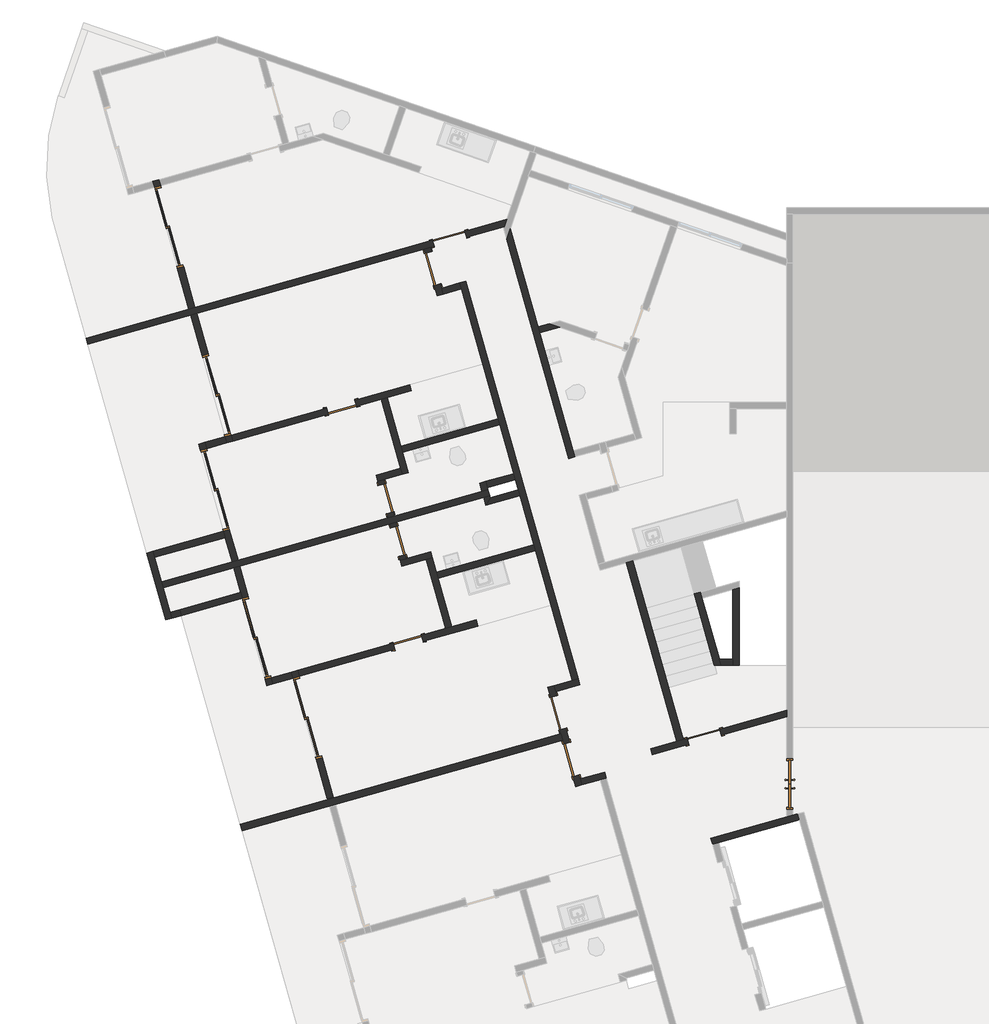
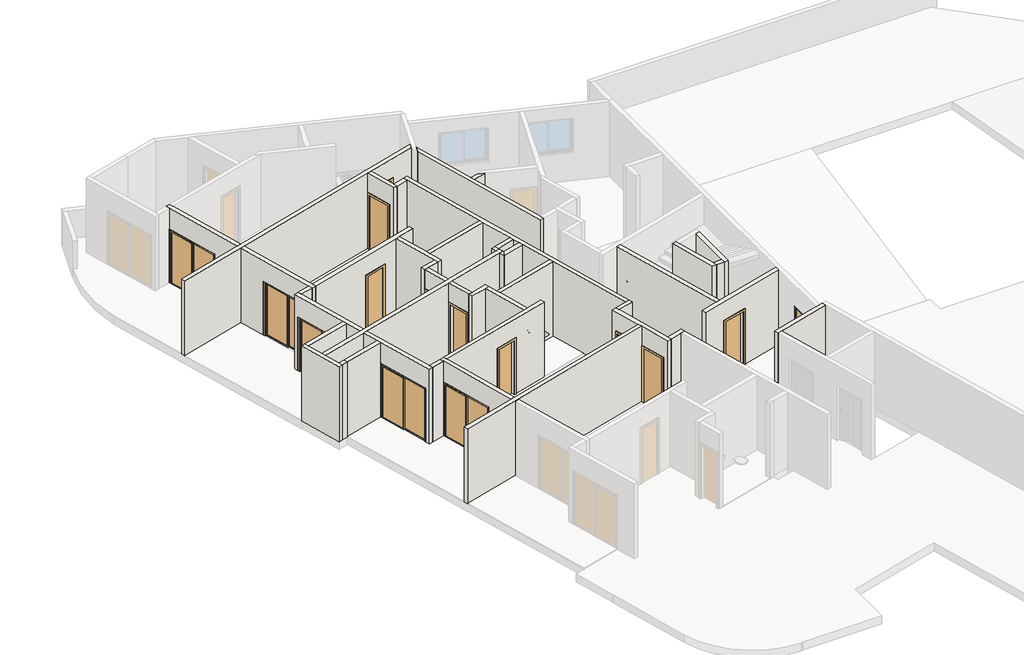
# One storey, part 2 of 4: 42 walls, 15 doors.
"""IFC4 building model written with IfcOpenShell, lengths in millimetres."""

from ifc_helpers import new_model, si_unit, frame, origin, place, context, project, spatial, polyline, outline, extrude, faceted_brep, transform, mapped, element, save
from components import door_1_20_x_2_10_046a985c, p2_80cm_9d4be4ef, p2_80cm_083652d6, p3_70cm_ef4d15e3, p3_70cm_0a698c7c, p4_correr_200cm_eaaa0877

model = new_model("IFC4")

# Units and contexts
model_context = context("Model", 3, world=origin())
ifc_project = project(units=[si_unit("LENGTHUNIT", "METRE", prefix="MILLI")], contexts=[model_context])

# Site, building, storey
site = spatial("IfcSite", under=ifc_project)
building = spatial("IfcBuilding", under=site)
storey = spatial("IfcBuildingStorey", under=building, Name="Garagem 2", Elevation=44950.0)

# Doors
placement = place(None, origin())
door_1_20_x_2_10_shape = door_1_20_x_2_10_046a985c(model_context)
element("IfcDoor", 1, ObjectType="Porta pivotante dupla sem revestimento : 1.20 x 2.10", at=placement, inside=storey, context=model_context, shape_type="MappedRepresentation", body=[
    mapped(door_1_20_x_2_10_shape, transform((-75072.8282189, 18002.5140353, 44950.0), x_axis=(0.0, -1.0, 0.0), y_axis=(1.0, 0.0, 0.0), z_axis=(0.0, 0.0, 1.0))),
])
p2_80cm_shape = p2_80cm_9d4be4ef(model_context)
element("IfcDoor", 2, ObjectType="M_Folha única1 : P2 - 80CM", at=placement, inside=storey, context=model_context, shape_type="MappedRepresentation", body=[
    mapped(p2_80cm_shape, transform((-83145.1128896, 30941.0402894, 44950.0), x_axis=(-0.9623628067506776, -0.2717679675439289, 0.0), y_axis=(0.2717679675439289, -0.9623628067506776, 0.0), z_axis=(0.0, 0.0, 1.0))),
])
element("IfcDoor", 3, ObjectType="M_Folha única1 : P2 - 80CM", at=placement, inside=storey, context=model_context, shape_type="MappedRepresentation", body=[
    mapped(p2_80cm_shape, transform((-80566.3456776, 19693.5423602, 44950.0), x_axis=(0.2717679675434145, -0.9623628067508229, 0.0), y_axis=(0.9623628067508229, 0.2717679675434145, 0.0), z_axis=(0.0, 0.0, 1.0))),
])
p2_80cm_2_shape = p2_80cm_083652d6(model_context)
element("IfcDoor", 4, ObjectType="M_Folha única1 : P2 - 80CM", at=placement, inside=storey, context=model_context, shape_type="MappedRepresentation", body=[
    mapped(p2_80cm_2_shape, transform((-83542.2049222, 30231.4150941, 44950.0), x_axis=(-0.2717679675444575, 0.9623628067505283, 0.0), y_axis=(-0.9623628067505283, -0.2717679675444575, 0.0), z_axis=(0.0, 0.0, 1.0))),
])
element("IfcDoor", 5, ObjectType="M_Folha única1 : P2 - 80CM", at=placement, inside=storey, context=model_context, shape_type="MappedRepresentation", body=[
    mapped(p2_80cm_2_shape, transform((-80253.8125149, 18586.8251325, 44950.0), x_axis=(-0.2717679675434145, 0.9623628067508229, 0.0), y_axis=(-0.9623628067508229, -0.2717679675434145, 0.0), z_axis=(0.0, 0.0, 1.0))),
])
p3_70cm_shape = p3_70cm_ef4d15e3(model_context)
element("IfcDoor", 6, ObjectType="M_Folha única1 : P3 - 70CM", at=placement, inside=storey, context=model_context, shape_type="MappedRepresentation", body=[
    mapped(p3_70cm_shape, transform((-84129.1775441, 21363.1168842, 44950.0), x_axis=(0.9623628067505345, 0.27176796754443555, 0.0), y_axis=(-0.27176796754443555, 0.9623628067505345, 0.0), z_axis=(0.0, 0.0, 1.0))),
])
element("IfcDoor", 7, ObjectType="M_Folha única1 : P3 - 70CM", at=placement, inside=storey, context=model_context, shape_type="MappedRepresentation", body=[
    mapped(p3_70cm_shape, transform((-84650.97864, 24774.7108835, 44950.0), x_axis=(0.2717679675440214, -0.9623628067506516, 0.0), y_axis=(0.9623628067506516, 0.2717679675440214, 0.0), z_axis=(0.0, 0.0, 1.0))),
])
p3_70cm_2_shape = p3_70cm_0a698c7c(model_context)
element("IfcDoor", 8, ObjectType="M_Folha única1 : P3 - 70CM", at=placement, inside=storey, context=model_context, shape_type="MappedRepresentation", body=[
    mapped(p3_70cm_2_shape, transform((-84365.6222741, 23764.2299364, 44950.0), x_axis=(-0.2717679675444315, 0.9623628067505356, 0.0), y_axis=(-0.9623628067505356, -0.2717679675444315, 0.0), z_axis=(0.0, 0.0, 1.0))),
])
element("IfcDoor", 9, ObjectType="M_Folha única1 : P3 - 70CM", at=placement, inside=storey, context=model_context, shape_type="MappedRepresentation", body=[
    mapped(p3_70cm_2_shape, transform((-85705.4317558, 26944.8211633, 44950.0), x_axis=(0.9623628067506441, 0.2717679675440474, 0.0), y_axis=(-0.2717679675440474, 0.9623628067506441, 0.0), z_axis=(0.0, 0.0, 1.0))),
])
p4_correr_200cm_shape = p4_correr_200cm_eaaa0877(model_context)
element("IfcDoor", 10, ObjectType="Porta de correr dupla envidraçada sem revestimento : P4 - CORRER - 200CM", at=placement, inside=storey, context=model_context, shape_type="MappedRepresentation", body=[
    mapped(p4_correr_200cm_shape, transform((-89799.7974026, 31217.9316171, 44950.0), x_axis=(0.27176796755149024, -0.9623628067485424, 0.0), y_axis=(0.9623628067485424, 0.27176796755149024, 0.0), z_axis=(0.0, 0.0, 1.0))),
])
element("IfcDoor", 11, ObjectType="Porta de correr dupla envidraçada sem revestimento : P4 - CORRER - 200CM", at=placement, inside=storey, context=model_context, shape_type="MappedRepresentation", body=[
    mapped(p4_correr_200cm_shape, transform((-88671.9603372, 27224.125969, 44950.0), x_axis=(-0.27176796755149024, 0.9623628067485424, 0.0), y_axis=(-0.9623628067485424, -0.27176796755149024, 0.0), z_axis=(0.0, 0.0, 1.0))),
])
element("IfcDoor", 12, ObjectType="Porta de correr dupla envidraçada sem revestimento : P4 - CORRER - 200CM", at=placement, inside=storey, context=model_context, shape_type="MappedRepresentation", body=[
    mapped(p4_correr_200cm_shape, transform((-86511.4049952, 19573.3416554, 44950.0), x_axis=(0.2717679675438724, -0.9623628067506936, 0.0), y_axis=(0.9623628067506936, 0.2717679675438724, 0.0), z_axis=(0.0, 0.0, 1.0))),
])
element("IfcDoor", 13, ObjectType="Porta de correr dupla envidraçada sem revestimento : P4 - CORRER - 200CM", at=placement, inside=storey, context=model_context, shape_type="MappedRepresentation", body=[
    mapped(p4_correr_200cm_shape, transform((-87717.4207223, 21466.8516126, 44950.0), x_axis=(0.2717679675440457, -0.9623628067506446, 0.0), y_axis=(0.9623628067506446, 0.2717679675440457, 0.0), z_axis=(0.0, 0.0, 1.0))),
])
element("IfcDoor", 14, ObjectType="Porta de correr dupla envidraçada sem revestimento : P4 - CORRER - 200CM", at=placement, inside=storey, context=model_context, shape_type="MappedRepresentation", body=[
    mapped(p4_correr_200cm_shape, transform((-88709.3738038, 24979.4758572, 44950.0), x_axis=(-0.2717679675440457, 0.9623628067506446, 0.0), y_axis=(-0.9623628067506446, -0.2717679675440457, 0.0), z_axis=(0.0, 0.0, 1.0))),
])
element("IfcDoor", 15, ObjectType="M_Folha única1 : PCF1 - 80CM", at=placement, inside=storey, context=model_context, shape_type="MappedRepresentation", body=[
    mapped(p2_80cm_shape, transform((-77103.5502958, 19127.1105693, 44950.0), x_axis=(-0.9623628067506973, -0.2717679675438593, 0.0), y_axis=(0.2717679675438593, -0.9623628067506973, 0.0), z_axis=(0.0, 0.0, 1.0))),
])

# Walls
element("IfcWall", 16, ObjectType="Básica .15 -  Interna", at=placement, inside=storey, context=model_context, shape_type="Brep", body=[
    faceted_brep([(-82901.0804648, 29892.9118737, 44950.0), (-82860.3152697, 29748.5574527, 44950.0), (-81990.6577736, 26668.9964711, 44950.0), (-81949.8925784, 26524.6420501, 44950.0), (-81623.7710174, 25369.806682, 44950.0), (-81583.0058223, 25225.452261, 44950.0), (-81515.0638304, 24984.8615593, 44950.0), (-81474.2986352, 24840.5071383, 44950.0), (-81148.1770742, 23685.6717702, 44950.0), (-81107.4118791, 23541.3173492, 44950.0), (-80237.7543829, 20461.7563676, 44950.0), (-80237.7543829, 20461.7563676, 47850.0), (-81107.4118791, 23541.3173492, 47850.0), (-81148.1770742, 23685.6717702, 47850.0), (-81474.2986352, 24840.5071383, 47850.0), (-81515.0638304, 24984.8615593, 47850.0), (-81583.0058223, 25225.452261, 47850.0), (-81623.7710174, 25369.806682, 47850.0), (-81949.8925784, 26524.6420501, 47850.0), (-81990.6577736, 26668.9964711, 47850.0), (-82860.3152697, 29748.5574527, 47850.0), (-82901.0804648, 29892.9118737, 47850.0), (-82756.7260438, 29933.6770689, 44950.0), (-82756.7260438, 29933.6770689, 47850.0), (-80093.3999619, 20502.5215627, 47850.0), (-80093.3999619, 20502.5215627, 44950.0)], [[[0, 1, 2, 3, 4, 5, 6, 7, 8, 9, 10, 11, 12, 13, 14, 15, 16, 17, 18, 19, 20, 21]], [[22, 23, 24, 25]], [[10, 9, 8, 7, 6, 5, 4, 3, 2, 1, 0, 22, 25]], [[21, 20, 19, 18, 17, 16, 15, 14, 13, 12, 11, 24, 23]], [[0, 21, 23, 22]], [[11, 10, 25, 24]]]),
])
element("IfcWall", 17, ObjectType="Básica .15 -  Interna", at=placement, inside=storey, context=model_context, shape_type="Brep", body=[
    faceted_brep([(-83750.2661164, 30692.2138999, 44950.0), (-83723.0893197, 30595.9776193, 44950.0), (-83723.0893197, 30595.9776193, 47050.0), (-83505.6749457, 29826.0873739, 47050.0), (-83505.6749457, 29826.0873739, 44950.0), (-83437.7329538, 29585.4966722, 44950.0), (-83437.7329538, 29585.4966722, 47850.0), (-83750.2661164, 30692.2138999, 47850.0), (-83578.7348987, 30636.7428144, 47050.0), (-83578.7348987, 30636.7428144, 44950.0), (-83605.9116954, 30732.9790951, 44950.0), (-83605.9116954, 30732.9790951, 47850.0), (-83334.1437279, 29770.6162883, 47850.0), (-83293.3785328, 29626.2618673, 47850.0), (-83293.3785328, 29626.2618673, 44950.0), (-83334.1437279, 29770.6162883, 44950.0), (-83361.3205246, 29866.852569, 44950.0), (-83361.3205246, 29866.852569, 47050.0)], [[[0, 1, 2, 3, 4, 5, 6, 7]], [[8, 9, 10, 11, 12, 13, 14, 15, 16, 17]], [[10, 9, 1, 0]], [[16, 15, 14, 5, 4]], [[7, 6, 13, 12, 11]], [[6, 5, 14, 13]], [[0, 7, 11, 10]], [[2, 1, 9, 8]], [[3, 2, 8, 17]], [[4, 3, 17, 16]]]),
])
element("IfcWall", 18, ObjectType="Básica .15 -  Interna", at=placement, inside=storey, context=model_context, shape_type="SweptSolid", body=[
    extrude(outline(polyline([(-82860.3152697, 29748.5574527), (-83293.3785328, 29626.2618673), (-83334.1437279, 29770.6162883), (-82901.0804648, 29892.9118737), (-82860.3152697, 29748.5574527)])), frame((0.0, 0.0, 44950.0), z_axis=(0.0, 0.0, 1.0), x_axis=(1.0, 0.0, 0.0)), (0.0, 0.0, 1.0), 2900.0),
])
element("IfcWall", 19, ObjectType="Básica .15 -  Interna", at=placement, inside=storey, context=model_context, shape_type="Brep", body=[
    faceted_brep([(-80093.3999619, 20502.5215627, 44950.0), (-80237.7543829, 20461.7563676, 44950.0), (-80670.817646, 20339.4607822, 44950.0), (-80670.817646, 20339.4607822, 47850.0), (-80237.7543829, 20461.7563676, 47850.0), (-80093.3999619, 20502.5215627, 47850.0), (-80052.6347668, 20358.1671417, 44950.0), (-80052.6347668, 20358.1671417, 47850.0), (-80630.0524508, 20195.1063612, 47850.0), (-80630.0524508, 20195.1063612, 44950.0)], [[[0, 1, 2, 3, 4, 5]], [[6, 7, 8, 9]], [[2, 1, 0, 6, 9]], [[5, 4, 3, 8, 7]], [[3, 2, 9, 8]], [[0, 5, 7, 6]]]),
])
element("IfcWall", 20, ObjectType="Básica .15 -  Interna", at=placement, inside=storey, context=model_context, shape_type="Brep", body=[
    faceted_brep([(-80529.815701, 19288.21464, 44950.0), (-80502.6389043, 19191.9783593, 44950.0), (-80461.8737092, 19047.6239383, 44950.0), (-80434.6969124, 18951.3876576, 44950.0), (-80434.6969124, 18951.3876576, 47050.0), (-80217.2825384, 18181.4974122, 47050.0), (-80217.2825384, 18181.4974122, 44950.0), (-80149.3405465, 17940.9067105, 44950.0), (-80149.3405465, 17940.9067105, 47850.0), (-80461.8737092, 19047.6239383, 47850.0), (-80502.6389043, 19191.9783593, 47850.0), (-80815.172067, 20298.695587, 47850.0), (-80815.172067, 20298.695587, 44950.0), (-80747.2300751, 20058.1048854, 44950.0), (-80747.2300751, 20058.1048854, 47050.0), (-80529.815701, 19288.21464, 47050.0), (-80290.3424914, 18992.1528527, 47050.0), (-80290.3424914, 18992.1528527, 44950.0), (-80385.46128, 19328.9798351, 44950.0), (-80385.46128, 19328.9798351, 47050.0), (-80602.8756541, 20098.8700805, 47050.0), (-80602.8756541, 20098.8700805, 44950.0), (-80630.0524508, 20195.1063612, 44950.0), (-80670.817646, 20339.4607822, 44950.0), (-80670.817646, 20339.4607822, 47850.0), (-80630.0524508, 20195.1063612, 47850.0), (-80045.7513206, 18126.0263266, 47850.0), (-80004.9861255, 17981.6719056, 47850.0), (-80004.9861255, 17981.6719056, 44950.0), (-80045.7513206, 18126.0263266, 44950.0), (-80072.9281174, 18222.2626073, 44950.0), (-80072.9281174, 18222.2626073, 47050.0)], [[[0, 1, 2, 3, 4, 5, 6, 7, 8, 9, 10, 11, 12, 13, 14, 15]], [[16, 17, 18, 19, 20, 21, 22, 23, 24, 25, 26, 27, 28, 29, 30, 31]], [[13, 12, 23, 22, 21]], [[18, 17, 3, 2, 1, 0]], [[30, 29, 28, 7, 6]], [[11, 10, 9, 8, 27, 26, 25, 24]], [[12, 11, 24, 23]], [[8, 7, 28, 27]], [[19, 18, 0, 15]], [[20, 19, 15, 14]], [[21, 20, 14, 13]], [[4, 3, 17, 16]], [[5, 4, 16, 31]], [[6, 5, 31, 30]]]),
])
element("IfcWall", 21, ObjectType="Básica .15 -  Interna", at=placement, inside=storey, context=model_context, shape_type="Brep", body=[
    faceted_brep([(-80004.9861255, 17981.6719056, 44950.0), (-79571.9228624, 18103.967491, 44950.0), (-79427.5684414, 18144.7326862, 44950.0), (-79427.5684414, 18144.7326862, 47850.0), (-79571.9228624, 18103.967491, 47850.0), (-80004.9861255, 17981.6719056, 47850.0), (-80045.7513206, 18126.0263266, 44950.0), (-80045.7513206, 18126.0263266, 47850.0), (-79468.3336366, 18289.0871072, 47850.0), (-79468.3336366, 18289.0871072, 44950.0)], [[[0, 1, 2, 3, 4, 5]], [[6, 7, 8, 9]], [[2, 1, 0, 6, 9]], [[5, 4, 3, 8, 7]], [[3, 2, 9, 8]], [[0, 5, 7, 6]]]),
])
element("IfcWall", 22, ObjectType="Básica .15 -  Interna", at=placement, inside=storey, context=model_context, shape_type="Brep", body=[
    faceted_brep([(-86046.8404698, 17652.2925145, 44950.0), (-86046.8404698, 17652.2925145, 47850.0), (-86855.3501733, 20515.3218646, 47850.0), (-86896.1153684, 20659.6762856, 47850.0), (-86896.1153684, 20659.6762856, 44950.0), (-86855.3501733, 20515.3218646, 44950.0), (-86855.3501733, 20515.3218646, 47050.0), (-86311.8142382, 18590.596251, 47050.0), (-86311.8142382, 18590.596251, 44950.0), (-85902.4860488, 17693.0577096, 47850.0), (-85902.4860488, 17693.0577096, 44950.0), (-86167.4598172, 18631.3614462, 44950.0), (-86167.4598172, 18631.3614462, 47050.0), (-86710.9957523, 20556.0870597, 47050.0), (-86710.9957523, 20556.0870597, 44950.0), (-86751.7609474, 20700.4414807, 44950.0), (-86751.7609474, 20700.4414807, 47850.0), (-86710.9957523, 20556.0870597, 47850.0)], [[[0, 1, 2, 3, 4, 5, 6, 7, 8]], [[9, 10, 11, 12, 13, 14, 15, 16, 17]], [[10, 0, 8, 11]], [[4, 15, 14, 5]], [[1, 0, 10, 9]], [[3, 2, 1, 9, 17, 16]], [[4, 3, 16, 15]], [[7, 12, 11, 8]], [[12, 7, 6, 13]], [[13, 6, 5, 14]]]),
])
element("IfcWall", 23, ObjectType="Básica .15 -  Interna", at=placement, inside=storey, context=model_context, shape_type="Brep", body=[
    faceted_brep([(-88305.9570711, 23274.9583478, 47850.0), (-88469.0178517, 23852.3760319, 47850.0), (-88509.7830468, 23996.7304529, 47850.0), (-89094.084177, 26065.8104874, 47850.0), (-89094.084177, 26065.8104874, 44950.0), (-89053.3189819, 25921.4560664, 44950.0), (-89053.3189819, 25921.4560664, 47050.0), (-88509.7830468, 23996.7304529, 47050.0), (-88509.7830468, 23996.7304529, 44950.0), (-88469.0178517, 23852.3760319, 44950.0), (-88305.9570711, 23274.9583478, 44950.0), (-88949.729756, 26106.5756825, 47850.0), (-88908.9645609, 25962.2212615, 47850.0), (-88161.6026501, 23315.723543, 47850.0), (-88161.6026501, 23315.723543, 44950.0), (-88365.4286258, 24037.495648, 44950.0), (-88365.4286258, 24037.495648, 47050.0), (-88908.9645609, 25962.2212615, 47050.0), (-88908.9645609, 25962.2212615, 44950.0), (-88949.729756, 26106.5756825, 44950.0)], [[[0, 1, 2, 3, 4, 5, 6, 7, 8, 9, 10]], [[11, 12, 13, 14, 15, 16, 17, 18, 19]], [[4, 19, 18, 5]], [[14, 10, 9, 8, 15]], [[3, 2, 1, 0, 13, 12, 11]], [[4, 3, 11, 19]], [[0, 10, 14, 13]], [[17, 6, 5, 18]], [[6, 17, 16, 7]], [[7, 16, 15, 8]]]),
])
element("IfcWall", 24, ObjectType="Básica .15 -  Interna", at=placement, inside=storey, context=model_context, shape_type="Brep", body=[
    faceted_brep([(-89143.3190618, 29169.2341801, 47850.0), (-88328.0151592, 26282.1457598, 47850.0), (-88287.249964, 26137.7913388, 47850.0), (-88287.249964, 26137.7913388, 44950.0), (-88328.0151592, 26282.1457598, 44950.0), (-88328.0151592, 26282.1457598, 47050.0), (-88871.5510943, 28206.8713733, 47050.0), (-88871.5510943, 28206.8713733, 44950.0), (-89143.3190618, 29169.2341801, 44950.0), (-88431.604385, 26097.0261437, 47850.0), (-88472.3695802, 26241.3805647, 47850.0), (-89287.6734828, 29128.468985, 47850.0), (-89287.6734828, 29128.468985, 44950.0), (-89015.9055153, 28166.1061782, 44950.0), (-89015.9055153, 28166.1061782, 47050.0), (-88472.3695802, 26241.3805647, 47050.0), (-88472.3695802, 26241.3805647, 44950.0), (-88431.604385, 26097.0261437, 44950.0)], [[[0, 1, 2, 3, 4, 5, 6, 7, 8]], [[9, 10, 11, 12, 13, 14, 15, 16, 17]], [[3, 17, 16, 4]], [[12, 8, 7, 13]], [[2, 1, 0, 11, 10, 9]], [[3, 2, 9, 17]], [[0, 8, 12, 11]], [[6, 14, 13, 7]], [[14, 6, 5, 15]], [[15, 5, 4, 16]]]),
])
element("IfcWall", 25, ObjectType="Básica .15 -  Interna", at=placement, inside=storey, context=model_context, shape_type="Brep", body=[
    faceted_brep([(-76904.7538909, 16570.3643175, 44950.0), (-76760.3994699, 16611.1295126, 44950.0), (-74840.4856705, 17153.3066079, 44950.0), (-74840.4856705, 17153.3066079, 47850.0), (-76760.3994699, 16611.1295126, 47850.0), (-76904.7538909, 16570.3643175, 47850.0), (-76945.5190861, 16714.7187385, 44950.0), (-76945.5190861, 16714.7187385, 47850.0), (-75147.8282189, 17222.3804954, 47850.0), (-74997.8282189, 17264.7399828, 47850.0), (-74881.2508656, 17297.6610289, 47850.0), (-74881.2508656, 17297.6610289, 44950.0), (-74997.8282189, 17264.7399828, 44950.0), (-75147.8282189, 17222.3804954, 44950.0)], [[[0, 1, 2, 3, 4, 5]], [[6, 7, 8, 9, 10, 11, 12, 13]], [[2, 1, 0, 6, 13, 12, 11]], [[5, 4, 3, 10, 9, 8, 7]], [[0, 5, 7, 6]], [[3, 2, 11, 10]]]),
])
element("IfcWall", 26, ObjectType="Básica .15 -  Interna", at=placement, inside=storey, context=model_context, shape_type="SweptSolid", body=[
    extrude(outline(polyline([(-77749.4687652, 19022.6385875), (-78948.2127609, 23254.4051886), (-78803.8582924, 23295.1703972), (-77605.1142967, 19063.4037961), (-77749.4687652, 19022.6385875)])), frame((0.0, 0.0, 44950.0), z_axis=(0.0, 0.0, 1.0), x_axis=(1.0, 0.0, 0.0)), (0.0, 0.0, 1.0), 2900.0),
])
element("IfcWall", 27, ObjectType="Básica .15 -  Interna", at=placement, inside=storey, context=model_context, shape_type="Brep", body=[
    faceted_brep([(-77508.878016, 19090.5805928, 47050.0), (-77508.878016, 19090.5805928, 44950.0), (-77605.1142967, 19063.4037961, 44950.0), (-77749.4687652, 19022.6385875, 44950.0), (-78375.5945972, 18845.8227925, 44950.0), (-78375.5945972, 18845.8227925, 47850.0), (-77749.4687652, 19022.6385875, 47850.0), (-77605.1142967, 19063.4037961, 47850.0), (-75147.8282189, 19757.3329862, 47850.0), (-75147.8282189, 19757.3329862, 44950.0), (-76738.9877706, 19307.9949669, 44950.0), (-76738.9877706, 19307.9949669, 47050.0), (-78334.829402, 18701.4683715, 44950.0), (-77468.1128209, 18946.2261718, 44950.0), (-77468.1128209, 18946.2261718, 47050.0), (-76698.2225755, 19163.6405459, 47050.0), (-76698.2225755, 19163.6405459, 44950.0), (-75147.8282189, 19601.4666134, 44950.0), (-75147.8282189, 19601.4666134, 47850.0), (-78334.829402, 18701.4683715, 47850.0)], [[[0, 1, 2, 3, 4, 5, 6, 7, 8, 9, 10, 11]], [[12, 13, 14, 15, 16, 17, 18, 19]], [[10, 9, 17, 16]], [[4, 3, 2, 1, 13, 12]], [[5, 4, 12, 19]], [[8, 7, 6, 5, 19, 18]], [[14, 13, 1, 0]], [[15, 14, 0, 11]], [[16, 15, 11, 10]], [[9, 8, 18, 17]]]),
])
element("IfcWall", 28, ObjectType="Básica .15 -  Interna", at=placement, inside=storey, context=model_context, shape_type="Brep", body=[
    faceted_brep([(-81789.2550074, 30934.0017027, 44950.0), (-80318.2667662, 25725.0567879, 44950.0), (-80318.2667662, 25725.0567879, 47850.0), (-81789.2550074, 30934.0017027, 47850.0), (-81703.3880158, 31181.8778654, 44950.0), (-81703.3880158, 31181.8778654, 47850.0), (-81045.1503443, 28850.9797144, 47850.0), (-81004.3851492, 28706.6252933, 47850.0), (-80214.6775403, 25910.176404, 47850.0), (-80173.9123452, 25765.821983, 47850.0), (-80173.9123452, 25765.821983, 44950.0), (-80214.6775403, 25910.176404, 44950.0), (-81004.3851492, 28706.6252933, 44950.0), (-81045.1503443, 28850.9797144, 44950.0)], [[[0, 1, 2, 3]], [[4, 5, 6, 7, 8, 9, 10, 11, 12, 13]], [[1, 0, 4, 13, 12, 11, 10]], [[3, 2, 9, 8, 7, 6, 5]], [[0, 3, 5, 4]], [[2, 1, 10, 9]]]),
])
element("IfcWall", 29, ObjectType="Básica .15 - Externa", at=placement, inside=storey, context=model_context, shape_type="Brep", body=[
    faceted_brep([(-89732.866261, 21936.8058326, 44950.0), (-89773.6314561, 22081.1602536, 44950.0), (-89936.6922366, 22658.5779377, 44950.0), (-89977.4574318, 22802.9323587, 44950.0), (-90140.5182123, 23380.3500428, 44950.0), (-90181.2834074, 23524.7044638, 44950.0), (-90181.2834074, 23524.7044638, 47850.0), (-90140.5182123, 23380.3500428, 47850.0), (-89977.4574318, 22802.9323587, 47850.0), (-89936.6922366, 22658.5779377, 47850.0), (-89773.6314561, 22081.1602536, 47850.0), (-89732.866261, 21936.8058326, 47850.0), (-89877.220682, 21896.0406375, 44950.0), (-89877.220682, 21896.0406375, 47850.0), (-90325.6378284, 23483.9392686, 47850.0), (-90325.6378284, 23483.9392686, 44950.0)], [[[0, 1, 2, 3, 4, 5, 6, 7, 8, 9, 10, 11]], [[12, 13, 14, 15]], [[5, 4, 3, 2, 1, 0, 12, 15]], [[11, 10, 9, 8, 7, 6, 14, 13]], [[0, 11, 13, 12]], [[6, 5, 15, 14]]]),
])
element("IfcWall", 30, ObjectType="Básica .15 -  Interna", at=placement, inside=storey, context=model_context, shape_type="Brep", body=[
    faceted_brep([(-88102.1310955, 22553.1862428, 44950.0), (-89549.4965332, 22144.4551899, 44950.0), (-89549.4965332, 22144.4551899, 47850.0), (-88102.1310955, 22553.1862428, 47850.0), (-88061.3659003, 22408.8318218, 44950.0), (-88061.3659003, 22408.8318218, 47050.0), (-88061.3659003, 22408.8318218, 47850.0), (-89508.731338, 22000.1007688, 47850.0), (-89508.731338, 22000.1007688, 44950.0)], [[[0, 1, 2, 3]], [[4, 5, 6, 7, 8]], [[1, 0, 4, 8]], [[2, 1, 8, 7]], [[3, 2, 7, 6]], [[0, 3, 6, 5, 4]]]),
])
element("IfcWall", 31, ObjectType="Básica .15 -  Interna", at=placement, inside=storey, context=model_context, shape_type="Brep", body=[
    faceted_brep([(-90140.5182123, 23380.3500428, 44950.0), (-88469.0178517, 23852.3760319, 44950.0), (-88469.0178517, 23852.3760319, 47850.0), (-90140.5182123, 23380.3500428, 47850.0), (-90181.2834074, 23524.7044638, 44950.0), (-90181.2834074, 23524.7044638, 47850.0), (-88509.7830468, 23996.7304529, 47850.0), (-88509.7830468, 23996.7304529, 47050.0), (-88509.7830468, 23996.7304529, 44950.0)], [[[0, 1, 2, 3]], [[4, 5, 6, 7, 8]], [[1, 0, 4, 8]], [[3, 2, 6, 5]], [[0, 3, 5, 4]], [[2, 1, 8, 7, 6]]]),
])
element("IfcWall", 32, ObjectType="Básica .15 -  Interna", at=placement, inside=storey, context=model_context, shape_type="Brep", body=[
    faceted_brep([(-86896.1153684, 20659.6762856, 44950.0), (-87373.4755442, 20524.8714034, 44950.0), (-87373.4755442, 20524.8714034, 47050.0), (-87373.4755442, 20524.8714034, 47850.0), (-86896.1153684, 20659.6762856, 47850.0), (-86855.3501733, 20515.3218646, 44950.0), (-86855.3501733, 20515.3218646, 47050.0), (-86855.3501733, 20515.3218646, 47850.0), (-87332.7103491, 20380.5169824, 47850.0), (-87332.7103491, 20380.5169824, 44950.0)], [[[0, 1, 2, 3, 4]], [[5, 6, 7, 8, 9]], [[1, 0, 5, 9]], [[4, 3, 8, 7]], [[0, 4, 7, 6, 5]], [[3, 2, 1, 9, 8]]]),
])
element("IfcWall", 33, ObjectType="Básica .15 -  Interna", at=placement, inside=storey, context=model_context, shape_type="Brep", body=[
    faceted_brep([(-88908.9645609, 25962.2212615, 44950.0), (-88431.604385, 26097.0261437, 44950.0), (-88431.604385, 26097.0261437, 47850.0), (-88908.9645609, 25962.2212615, 47850.0), (-88908.9645609, 25962.2212615, 47050.0), (-88949.729756, 26106.5756825, 44950.0), (-88949.729756, 26106.5756825, 47850.0), (-88472.3695802, 26241.3805647, 47850.0), (-88472.3695802, 26241.3805647, 44950.0)], [[[0, 1, 2, 3, 4]], [[5, 6, 7, 8]], [[1, 0, 5, 8]], [[3, 2, 7, 6]], [[0, 4, 3, 6, 5]], [[2, 1, 8, 7]]]),
])
element("IfcWall", 34, ObjectType="Básica .15 -  Interna", at=placement, inside=storey, context=model_context, shape_type="Brep", body=[
    faceted_brep([(-91725.2428613, 28440.1077234, 44950.0), (-89287.6734828, 29128.468985, 44950.0), (-89143.3190618, 29169.2341801, 44950.0), (-83750.2661164, 30692.2138999, 44950.0), (-83605.9116954, 30732.9790951, 44950.0), (-83509.6754148, 30760.1558918, 44950.0), (-83509.6754148, 30760.1558918, 47050.0), (-82739.7851694, 30977.5702659, 47050.0), (-82739.7851694, 30977.5702659, 44950.0), (-81845.4155775, 31230.1371819, 44950.0), (-81845.4155775, 31230.1371819, 47850.0), (-83605.9116954, 30732.9790951, 47850.0), (-83750.2661164, 30692.2138999, 47850.0), (-89143.3190618, 29169.2341801, 47850.0), (-89287.6734828, 29128.468985, 47850.0), (-91725.2428613, 28440.1077234, 47850.0), (-83550.4406099, 30904.5103128, 47050.0), (-83550.4406099, 30904.5103128, 44950.0), (-89184.084257, 29313.5886011, 44950.0), (-89328.438678, 29272.823406, 44950.0), (-91766.0080564, 28584.4621444, 44950.0), (-91766.0080564, 28584.4621444, 47850.0), (-89328.438678, 29272.823406, 47850.0), (-89184.084257, 29313.5886011, 47850.0), (-81785.5670817, 31402.9045654, 47850.0), (-81785.5670817, 31402.9045654, 44950.0), (-82780.5503645, 31121.9246869, 44950.0), (-82780.5503645, 31121.9246869, 47050.0)], [[[0, 1, 2, 3, 4, 5, 6, 7, 8, 9, 10, 11, 12, 13, 14, 15]], [[16, 17, 18, 19, 20, 21, 22, 23, 24, 25, 26, 27]], [[26, 25, 9, 8]], [[20, 19, 18, 17, 5, 4, 3, 2, 1, 0]], [[15, 14, 13, 12, 11, 10, 24, 23, 22, 21]], [[0, 15, 21, 20]], [[10, 9, 25, 24]], [[6, 5, 17, 16]], [[7, 6, 16, 27]], [[8, 7, 27, 26]]]),
])
element("IfcWall", 35, ObjectType="Básica .15 -  Interna", at=placement, inside=storey, context=model_context, shape_type="Brep", body=[
    faceted_brep([(-90040.1533547, 32345.0314424, 47850.0), (-89999.3881596, 32200.6770214, 47850.0), (-89184.084257, 29313.5886011, 47850.0), (-89184.084257, 29313.5886011, 44950.0), (-89455.8522245, 30275.9514079, 44950.0), (-89455.8522245, 30275.9514079, 47050.0), (-89999.3881596, 32200.6770214, 47050.0), (-89999.3881596, 32200.6770214, 44950.0), (-90040.1533547, 32345.0314424, 44950.0), (-89328.438678, 29272.823406, 47850.0), (-90143.7425806, 32159.9118263, 47850.0), (-90184.5077758, 32304.2662473, 47850.0), (-90184.5077758, 32304.2662473, 44950.0), (-90143.7425806, 32159.9118262, 44950.0), (-90143.7425806, 32159.9118262, 47050.0), (-89600.2066455, 30235.1862128, 47050.0), (-89600.2066455, 30235.1862128, 44950.0), (-89328.438678, 29272.823406, 44950.0)], [[[0, 1, 2, 3, 4, 5, 6, 7, 8]], [[9, 10, 11, 12, 13, 14, 15, 16, 17]], [[12, 8, 7, 13]], [[3, 17, 16, 4]], [[2, 1, 0, 11, 10, 9]], [[0, 8, 12, 11]], [[3, 2, 9, 17]], [[15, 5, 4, 16]], [[5, 15, 14, 6]], [[6, 14, 13, 7]]]),
])
element("IfcWall", 36, ObjectType="Básica .15 -  Interna", at=placement, inside=storey, context=model_context, shape_type="Brep", body=[
    faceted_brep([(-89936.6922366, 22658.5779377, 44950.0), (-88265.191876, 23130.6039268, 44950.0), (-88120.837455, 23171.369122, 44950.0), (-84560.09507, 24176.9106019, 44950.0), (-84415.740649, 24217.675797, 44950.0), (-82192.6825654, 24845.459802, 44950.0), (-82192.6825654, 24845.459802, 47850.0), (-84415.740649, 24217.675797, 47850.0), (-84560.09507, 24176.9106019, 47850.0), (-88120.837455, 23171.369122, 47850.0), (-88265.191876, 23130.6039268, 47850.0), (-89936.6922366, 22658.5779377, 47850.0), (-89977.4574318, 22802.9323587, 44950.0), (-89977.4574318, 22802.9323587, 47850.0), (-88305.9570711, 23274.9583478, 47850.0), (-88161.6026501, 23315.723543, 47850.0), (-84600.8602651, 24321.2650229, 47850.0), (-84456.5058441, 24362.030218, 47850.0), (-82233.4477605, 24989.814223, 47850.0), (-82233.4477605, 24989.814223, 44950.0), (-84456.5058441, 24362.030218, 44950.0), (-84600.8602651, 24321.2650229, 44950.0), (-88161.6026501, 23315.723543, 44950.0), (-88305.9570711, 23274.9583478, 44950.0)], [[[0, 1, 2, 3, 4, 5, 6, 7, 8, 9, 10, 11]], [[12, 13, 14, 15, 16, 17, 18, 19, 20, 21, 22, 23]], [[5, 4, 3, 2, 1, 0, 12, 23, 22, 21, 20, 19]], [[6, 5, 19, 18]], [[11, 10, 9, 8, 7, 6, 18, 17, 16, 15, 14, 13]], [[0, 11, 13, 12]]]),
])
element("IfcWall", 37, ObjectType="Básica .15 -  Interna", at=placement, inside=storey, context=model_context, shape_type="Brep", body=[
    faceted_brep([(-87477.0647701, 20339.7517872, 47850.0), (-88061.3659003, 22408.8318218, 47850.0), (-88102.1310955, 22553.1862428, 47850.0), (-88265.191876, 23130.6039268, 47850.0), (-88265.191876, 23130.6039268, 44950.0), (-88102.1310955, 22553.1862428, 44950.0), (-88061.3659003, 22408.8318218, 44950.0), (-88061.3659003, 22408.8318218, 47050.0), (-87517.8299653, 20484.1062083, 47050.0), (-87517.8299653, 20484.1062083, 44950.0), (-87477.0647701, 20339.7517872, 44950.0), (-88120.837455, 23171.369122, 47850.0), (-87373.4755442, 20524.8714034, 47850.0), (-87332.7103491, 20380.5169824, 47850.0), (-87332.7103491, 20380.5169824, 44950.0), (-87373.4755442, 20524.8714034, 44950.0), (-87373.4755442, 20524.8714034, 47050.0), (-87917.0114793, 22449.5970169, 47050.0), (-87917.0114793, 22449.5970169, 44950.0), (-88120.837455, 23171.369122, 44950.0)], [[[0, 1, 2, 3, 4, 5, 6, 7, 8, 9, 10]], [[11, 12, 13, 14, 15, 16, 17, 18, 19]], [[14, 10, 9, 15]], [[4, 19, 18, 6, 5]], [[3, 2, 1, 0, 13, 12, 11]], [[0, 10, 14, 13]], [[4, 3, 11, 19]], [[8, 16, 15, 9]], [[16, 8, 7, 17]], [[17, 7, 6, 18]]]),
])
element("IfcWall", 38, ObjectType="Básica .15 -  Interna", at=placement, inside=storey, context=model_context, shape_type="SweptSolid", body=[
    extrude(outline(polyline([(-80461.8737092, 19047.6239383), (-88068.36111, 16899.5778931), (-88109.1263052, 17043.9323141), (-80502.6389043, 19191.9783593), (-80461.8737092, 19047.6239383)])), frame((0.0, 0.0, 44950.0), z_axis=(0.0, 0.0, 1.0), x_axis=(1.0, 0.0, 0.0)), (0.0, 0.0, 1.0), 2900.0),
])
element("IfcWall", 39, ObjectType="Básica .15 - Externa", at=placement, inside=storey, context=model_context, shape_type="SweptSolid", body=[
    extrude(outline(polyline([(-89773.6314561, 22081.1602536), (-89549.4965332, 22144.4551899), (-89508.731338, 22000.1007688), (-89732.866261, 21936.8058326), (-89773.6314561, 22081.1602536)])), frame((0.0, 0.0, 44950.0), z_axis=(0.0, 0.0, 1.0), x_axis=(1.0, 0.0, 0.0)), (0.0, 0.0, 1.0), 2900.0),
])
element("IfcWall", 40, ObjectType="Básica .15 -  Interna", at=placement, inside=storey, context=model_context, shape_type="SweptSolid", body=[
    extrude(outline(polyline([(-82179.094167, 24797.3416617), (-81515.0638304, 24984.8615593), (-81474.2986352, 24840.5071383), (-82282.6833929, 24612.2220455), (-82179.094167, 24797.3416617)])), frame((0.0, 0.0, 44950.0), z_axis=(0.0, 0.0, 1.0), x_axis=(1.0, 0.0, 0.0)), (0.0, 0.0, 1.0), 2900.0),
])
element("IfcWall", 41, ObjectType="Básica .15 -  Interna", at=placement, inside=storey, context=model_context, shape_type="SweptSolid", body=[
    extrude(outline(polyline([(-82192.6825654, 24845.459802), (-82179.094167, 24797.3416617), (-82282.6833929, 24612.2220455), (-82337.0369864, 24804.6946069), (-82192.6825654, 24845.459802)])), frame((0.0, 0.0, 44950.0), z_axis=(0.0, 0.0, 1.0), x_axis=(1.0, 0.0, 0.0)), (0.0, 0.0, 1.0), 2900.0),
])
element("IfcWall", 42, ObjectType="Básica .15 -  Interna", at=placement, inside=storey, context=model_context, shape_type="Brep", body=[
    faceted_brep([(-83593.7317942, 23514.6100515, 44950.0), (-84171.1494782, 23351.5492709, 44950.0), (-84315.5038992, 23310.7840758, 44950.0), (-84315.5038992, 23310.7840758, 47850.0), (-84171.1494782, 23351.5492709, 47850.0), (-83593.7317942, 23514.6100515, 47850.0), (-83552.966599, 23370.2556304, 44950.0), (-83552.966599, 23370.2556304, 47850.0), (-83697.32102, 23329.4904353, 47850.0), (-84274.7387041, 23166.4296548, 47850.0), (-84274.7387041, 23166.4296548, 44950.0), (-83697.32102, 23329.4904353, 44950.0)], [[[0, 1, 2, 3, 4, 5]], [[6, 7, 8, 9, 10, 11]], [[2, 1, 0, 6, 11, 10]], [[5, 4, 3, 9, 8, 7]], [[0, 5, 7, 6]], [[3, 2, 10, 9]]]),
])
element("IfcWall", 43, ObjectType="Básica .15 -  Interna", at=placement, inside=storey, context=model_context, shape_type="Brep", body=[
    faceted_brep([(-83090.9610542, 21734.238859, 44950.0), (-83417.0826153, 22889.0742271, 44950.0), (-83457.8478104, 23033.4286481, 44950.0), (-83552.966599, 23370.2556304, 44950.0), (-83552.966599, 23370.2556304, 47850.0), (-83457.8478104, 23033.4286481, 47850.0), (-83417.0826153, 22889.0742271, 47850.0), (-83090.9610542, 21734.238859, 47850.0), (-83235.3154752, 21693.4736638, 44950.0), (-83235.3154752, 21693.4736638, 47850.0), (-83697.32102, 23329.4904353, 47850.0), (-83697.32102, 23329.4904353, 44950.0)], [[[0, 1, 2, 3, 4, 5, 6, 7]], [[8, 9, 10, 11]], [[3, 2, 1, 0, 8, 11]], [[7, 6, 5, 4, 10, 9]], [[0, 7, 9, 8]], [[4, 3, 11, 10]]]),
])
element("IfcWall", 44, ObjectType="Básica .15 -  Interna", at=placement, inside=storey, context=model_context, shape_type="SweptSolid", body=[
    extrude(outline(polyline([(-83457.8478104, 23033.4286481), (-81148.1770742, 23685.6717702), (-81107.4118791, 23541.3173492), (-83417.0826153, 22889.0742271), (-83457.8478104, 23033.4286481)])), frame((0.0, 0.0, 44950.0), z_axis=(0.0, 0.0, 1.0), x_axis=(1.0, 0.0, 0.0)), (0.0, 0.0, 1.0), 2900.0),
])
element("IfcWall", 45, ObjectType="Básica .15 -  Interna", at=placement, inside=storey, context=model_context, shape_type="Brep", body=[
    faceted_brep([(-82513.5433702, 21897.2996395, 44950.0), (-83090.9610542, 21734.238859, 44950.0), (-83235.3154752, 21693.4736638, 44950.0), (-83812.7331593, 21530.4128833, 44950.0), (-83812.7331593, 21530.4128833, 47050.0), (-84486.387124, 21340.175306, 47050.0), (-84486.387124, 21340.175306, 44950.0), (-86751.7609474, 20700.4414807, 44950.0), (-86751.7609474, 20700.4414807, 47850.0), (-83235.3154752, 21693.4736638, 47850.0), (-83090.9610542, 21734.238859, 47850.0), (-82513.5433702, 21897.2996395, 47850.0), (-83771.9679641, 21386.0584623, 47050.0), (-83771.9679641, 21386.0584623, 44950.0), (-82472.778175, 21752.9452185, 44950.0), (-82472.778175, 21752.9452185, 47850.0), (-86710.9957523, 20556.0870597, 47850.0), (-86710.9957523, 20556.0870597, 47050.0), (-86710.9957523, 20556.0870597, 44950.0), (-84445.6219289, 21195.820885, 44950.0), (-84445.6219289, 21195.820885, 47050.0)], [[[0, 1, 2, 3, 4, 5, 6, 7, 8, 9, 10, 11]], [[12, 13, 14, 15, 16, 17, 18, 19, 20]], [[19, 18, 7, 6]], [[14, 13, 3, 2, 1, 0]], [[11, 10, 9, 8, 16, 15]], [[0, 11, 15, 14]], [[4, 3, 13, 12]], [[5, 4, 12, 20]], [[6, 5, 20, 19]], [[8, 7, 18, 17, 16]]]),
])
element("IfcWall", 46, ObjectType="Básica .15 -  Interna", at=placement, inside=storey, context=model_context, shape_type="SweptSolid", body=[
    extrude(outline(polyline([(150.0, 0.0), (250.0, 0.0), (250.0, -2100.0), (950.0, -2100.0), (950.0, 0.0), (1050.0, 0.0), (1050.0, -2900.0), (150.0, -2900.0), (150.0, 0.0)])), frame((-84600.8602651, 24321.2650229, 44950.0), z_axis=(0.9623628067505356, 0.2717679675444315, 0.0), x_axis=(0.2717679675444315, -0.9623628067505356, 0.0)), (0.0, 0.0, 1.0), 150.0),
])
element("IfcWall", 47, ObjectType="Básica .15 -  Interna", at=placement, inside=storey, context=model_context, shape_type="Brep", body=[
    faceted_brep([(-84770.8044918, 27130.823522, 44950.0), (-84308.798947, 25494.8067505, 44950.0), (-84268.0337519, 25350.4523295, 44950.0), (-84268.0337519, 25350.4523295, 47850.0), (-84308.798947, 25494.8067505, 47850.0), (-84770.8044918, 27130.823522, 47850.0), (-84626.4500708, 27171.5887171, 44950.0), (-84626.4500708, 27171.5887171, 47850.0), (-84300.3285098, 26016.753349, 47850.0), (-84259.5633146, 25872.398928, 47850.0), (-84123.6793309, 25391.2175246, 47850.0), (-84123.6793309, 25391.2175246, 44950.0), (-84259.5633146, 25872.398928, 44950.0), (-84300.3285098, 26016.753349, 44950.0)], [[[0, 1, 2, 3, 4, 5]], [[6, 7, 8, 9, 10, 11, 12, 13]], [[2, 1, 0, 6, 13, 12, 11]], [[5, 4, 3, 10, 9, 8, 7]], [[3, 2, 11, 10]], [[0, 5, 7, 6]]]),
])
element("IfcWall", 48, ObjectType="Básica .15 -  Interna", at=placement, inside=storey, context=model_context, shape_type="SweptSolid", body=[
    extrude(outline(polyline([(-84300.3285098, 26016.753349), (-81990.6577736, 26668.9964711), (-81949.8925784, 26524.6420501), (-84259.5633146, 25872.398928), (-84300.3285098, 26016.753349)])), frame((0.0, 0.0, 44950.0), z_axis=(0.0, 0.0, 1.0), x_axis=(1.0, 0.0, 0.0)), (0.0, 0.0, 1.0), 2900.0),
])
element("IfcWall", 49, ObjectType="Básica .15 -  Interna", at=placement, inside=storey, context=model_context, shape_type="Brep", body=[
    faceted_brep([(-84308.798947, 25494.8067505, 44950.0), (-84886.2166311, 25331.74597, 44950.0), (-84886.2166311, 25331.74597, 47850.0), (-84308.798947, 25494.8067505, 47850.0), (-84268.0337519, 25350.4523295, 44950.0), (-84268.0337519, 25350.4523295, 47850.0), (-84701.0970149, 25228.1567441, 47850.0), (-84845.4514359, 25187.391549, 47850.0), (-84845.4514359, 25187.391549, 44950.0), (-84701.0970149, 25228.1567441, 44950.0)], [[[0, 1, 2, 3]], [[4, 5, 6, 7, 8, 9]], [[1, 0, 4, 9, 8]], [[3, 2, 7, 6, 5]], [[2, 1, 8, 7]], [[0, 3, 5, 4]]]),
])
element("IfcWall", 50, ObjectType="Básica .15 -  Interna", at=placement, inside=storey, context=model_context, shape_type="SweptSolid", body=[
    extrude(outline(polyline([(800.0, -2100.0), (800.0, 0.0), (900.0, 0.0), (900.0, -2900.0), (0.0, -2900.0), (0.0, 0.0), (100.0, 0.0), (100.0, -2100.0), (800.0, -2100.0)])), frame((-84845.4514359, 25187.391549, 44950.0), z_axis=(0.9623628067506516, 0.2717679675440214, 0.0), x_axis=(0.2717679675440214, -0.9623628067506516, 0.0)), (0.0, 0.0, 1.0), 150.0),
])
element("IfcWall", 51, ObjectType="Básica .15 -  Interna", at=placement, inside=storey, context=model_context, shape_type="Brep", body=[
    faceted_brep([(-82432.1557751, 25141.5215893, 44950.0), (-82377.8021816, 24949.0490279, 44950.0), (-82377.8021816, 24949.0490279, 47850.0), (-82432.1557751, 25141.5215893, 47850.0), (-82287.801354, 25182.2867844, 44950.0), (-82287.801354, 25182.2867844, 47850.0), (-82247.0361589, 25037.9323634, 47850.0), (-82233.4477605, 24989.814223, 47850.0), (-82233.4477605, 24989.814223, 44950.0), (-82247.0361589, 25037.9323634, 44950.0)], [[[0, 1, 2, 3]], [[4, 5, 6, 7, 8, 9]], [[1, 0, 4, 9, 8]], [[2, 1, 8, 7]], [[3, 2, 7, 6, 5]], [[0, 3, 5, 4]]]),
])
element("IfcWall", 52, ObjectType="Básica .15 -  Interna", at=placement, inside=storey, context=model_context, shape_type="SweptSolid", body=[
    extrude(outline(polyline([(-81583.0058223, 25225.452261), (-82247.0361589, 25037.9323634), (-82287.801354, 25182.2867844), (-81623.7710174, 25369.806682), (-81583.0058223, 25225.452261)])), frame((0.0, 0.0, 44950.0), z_axis=(0.0, 0.0, 1.0), x_axis=(1.0, 0.0, 0.0)), (0.0, 0.0, 1.0), 2900.0),
])
element("IfcWall", 53, ObjectType="Básica .15 -  Interna", at=placement, inside=storey, context=model_context, shape_type="SweptSolid", body=[
    extrude(outline(polyline([(-81045.1503443, 28850.9797144), (-80778.126122, 28926.3864421), (-80530.2499593, 28840.5194505), (-81004.3851492, 28706.6252933), (-81045.1503443, 28850.9797144)])), frame((0.0, 0.0, 44950.0), z_axis=(0.0, 0.0, 1.0), x_axis=(1.0, 0.0, 0.0)), (0.0, 0.0, 1.0), 2900.0),
])
element("IfcWall", 54, ObjectType="Básica .15 -  Interna", at=placement, inside=storey, context=model_context, shape_type="Brep", body=[
    faceted_brep([(-85348.2221759, 26967.7627414, 47050.0), (-85348.2221759, 26967.7627414, 44950.0), (-84770.8044918, 27130.823522, 44950.0), (-84626.4500708, 27171.5887171, 44950.0), (-84049.0323868, 27334.6494976, 44950.0), (-84049.0323868, 27334.6494976, 47850.0), (-84626.4500708, 27171.5887171, 47850.0), (-84770.8044918, 27130.823522, 47850.0), (-88287.249964, 26137.7913388, 47850.0), (-88287.249964, 26137.7913388, 44950.0), (-86021.8761406, 26777.5251642, 44950.0), (-86021.8761406, 26777.5251642, 47050.0), (-84089.7975819, 27479.0039186, 44950.0), (-85388.987371, 27112.1171625, 44950.0), (-85388.987371, 27112.1171625, 47050.0), (-86062.6413357, 26921.8795852, 47050.0), (-86062.6413357, 26921.8795852, 44950.0), (-88328.0151592, 26282.1457598, 44950.0), (-88328.0151592, 26282.1457598, 47850.0), (-84089.7975819, 27479.0039186, 47850.0)], [[[0, 1, 2, 3, 4, 5, 6, 7, 8, 9, 10, 11]], [[12, 13, 14, 15, 16, 17, 18, 19]], [[10, 9, 17, 16]], [[4, 3, 2, 1, 13, 12]], [[5, 4, 12, 19]], [[8, 7, 6, 5, 19, 18]], [[16, 15, 11, 10]], [[15, 14, 0, 11]], [[14, 13, 1, 0]], [[9, 8, 18, 17]]]),
])
element("IfcWall", 55, ObjectType="Básica .15 -  Interna", at=placement, inside=storey, context=model_context, shape_type="Brep", body=[
    faceted_brep([(-76703.5854218, 20819.1154254, 44950.0), (-76745.9449092, 20969.1154254, 44950.0), (-77152.5348621, 22408.8989724, 44950.0), (-77193.3000572, 22553.2533934, 44950.0), (-77193.3000572, 22553.2533934, 47850.0), (-77152.5348621, 22408.8989724, 47850.0), (-76745.9449092, 20969.1154254, 47850.0), (-76703.5854218, 20819.1154254, 47850.0), (-76859.4517946, 20819.1154254, 44950.0), (-76859.4517946, 20819.1154254, 47850.0), (-77337.6544782, 22512.4881983, 47850.0), (-77337.6544782, 22512.4881983, 44950.0)], [[[0, 1, 2, 3, 4, 5, 6, 7]], [[8, 9, 10, 11]], [[3, 2, 1, 0, 8, 11]], [[7, 6, 5, 4, 10, 9]], [[4, 3, 11, 10]], [[0, 7, 9, 8]]]),
])
element("IfcWall", 56, ObjectType="Básica .15 -  Interna", at=placement, inside=storey, context=model_context, shape_type="Brep", body=[
    faceted_brep([(-76425.2862396, 22614.2714979, 44950.0), (-76425.2862396, 20969.1154254, 44950.0), (-76425.2862396, 20819.1154254, 44950.0), (-76425.2862396, 20819.1154254, 47850.0), (-76425.2862396, 20969.1154254, 47850.0), (-76425.2862396, 22614.2714979, 47850.0), (-76275.2862396, 22656.6309852, 44950.0), (-76275.2862396, 22656.6309852, 47850.0), (-76275.2862396, 20819.1154254, 47850.0), (-76275.2862396, 20819.1154254, 44950.0)], [[[0, 1, 2, 3, 4, 5]], [[6, 7, 8, 9]], [[2, 1, 0, 6, 9]], [[5, 4, 3, 8, 7]], [[0, 5, 7, 6]], [[3, 2, 9, 8]]]),
])
element("IfcWall", 57, ObjectType="Básica .15 -  Interna", at=placement, inside=storey, context=model_context, shape_type="SweptSolid", body=[
    extrude(outline(polyline([(-76745.9449092, 20969.1154254), (-76425.2862396, 20969.1154254), (-76425.2862396, 20819.1154254), (-76703.5854218, 20819.1154254), (-76745.9449092, 20969.1154254)])), frame((0.0, 0.0, 44950.0), z_axis=(0.0, 0.0, 1.0), x_axis=(1.0, 0.0, 0.0)), (0.0, 0.0, 1.0), 2900.0),
])

save(model, "model.ifc")
